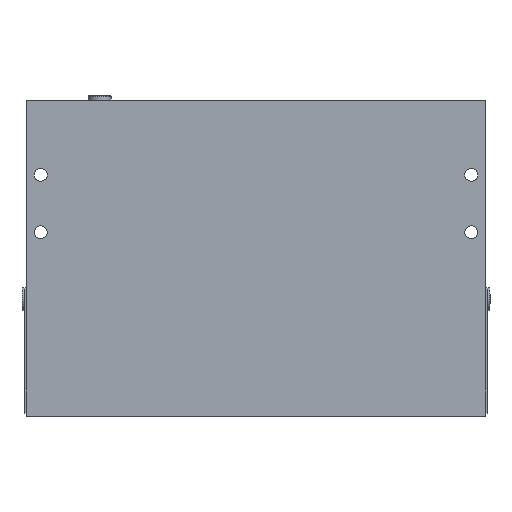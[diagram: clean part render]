
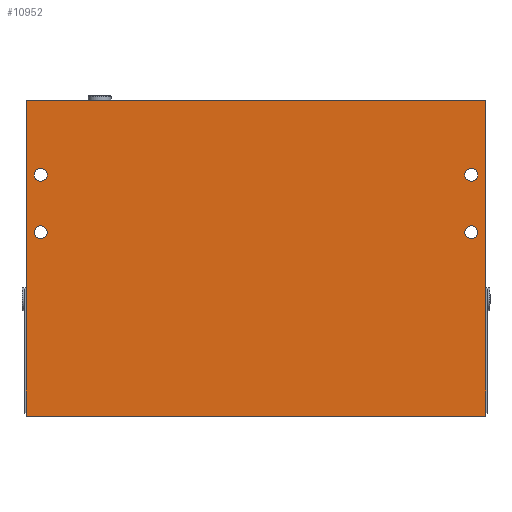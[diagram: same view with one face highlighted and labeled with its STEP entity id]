
A CAD part, front view. The second image highlights one B-rep face of the part: STEP entity #10952.
In plain terms, the highlighted planar face has unit normal (0, -1, 0).
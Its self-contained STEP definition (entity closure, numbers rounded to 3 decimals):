
#403 = ORIENTED_EDGE ( 'NONE', *, *, #3875, .F. ) ;
#476 = DIRECTION ( 'NONE',  ( 0., 1., 0. ) ) ;
#556 = DIRECTION ( 'NONE',  ( 1., 0., 0. ) ) ;
#590 = DIRECTION ( 'NONE',  ( 0., 1., 0. ) ) ;
#823 = EDGE_CURVE ( 'NONE', #8941, #10479, #4717, .T. ) ;
#862 = EDGE_CURVE ( 'NONE', #10107, #4468, #2111, .T. ) ;
#1250 = CIRCLE ( 'NONE', #8597, 2.25 ) ;
#1334 = VERTEX_POINT ( 'NONE', #7105 ) ;
#1379 = CARTESIAN_POINT ( 'NONE',  ( 0., 0., -110. ) ) ;
#1431 = VERTEX_POINT ( 'NONE', #5316 ) ;
#1522 = VERTEX_POINT ( 'NONE', #1379 ) ;
#1622 = LINE ( 'NONE', #2668, #7168 ) ;
#2093 = EDGE_LOOP ( 'NONE', ( #12599, #6381 ) ) ;
#2111 = CIRCLE ( 'NONE', #13261, 2.25 ) ;
#2149 = DIRECTION ( 'NONE',  ( 0., 1., 0. ) ) ;
#2155 = VECTOR ( 'NONE', #3781, 1000. ) ;
#2235 = CARTESIAN_POINT ( 'NONE',  ( 5., 0., -26. ) ) ;
#2319 = AXIS2_PLACEMENT_3D ( 'NONE', #8320, #14131, #3958 ) ;
#2354 = AXIS2_PLACEMENT_3D ( 'NONE', #8483, #476, #556 ) ;
#2668 = CARTESIAN_POINT ( 'NONE',  ( 0., 0., -110. ) ) ;
#2823 = FACE_BOUND ( 'NONE', #14098, .T. ) ;
#2910 = CARTESIAN_POINT ( 'NONE',  ( 155., 0., -26. ) ) ;
#2994 = ORIENTED_EDGE ( 'NONE', *, *, #10608, .T. ) ;
#3419 = EDGE_LOOP ( 'NONE', ( #13996, #4382, #403, #4705 ) ) ;
#3781 = DIRECTION ( 'NONE',  ( 1., 0., 0. ) ) ;
#3875 = EDGE_CURVE ( 'NONE', #6518, #8286, #7407, .T. ) ;
#3902 = CARTESIAN_POINT ( 'NONE',  ( 155., 0., -26. ) ) ;
#3958 = DIRECTION ( 'NONE',  ( 1., 0., 0. ) ) ;
#3980 = ORIENTED_EDGE ( 'NONE', *, *, #11473, .T. ) ;
#4012 = FACE_BOUND ( 'NONE', #13856, .T. ) ;
#4028 = CARTESIAN_POINT ( 'NONE',  ( 155., 0., -43.75 ) ) ;
#4143 = DIRECTION ( 'NONE',  ( 1., 0., 0. ) ) ;
#4156 = CIRCLE ( 'NONE', #12687, 2.25 ) ;
#4302 = CARTESIAN_POINT ( 'NONE',  ( 0., 0., 0. ) ) ;
#4335 = EDGE_CURVE ( 'NONE', #14662, #5114, #9504, .T. ) ;
#4382 = ORIENTED_EDGE ( 'NONE', *, *, #14047, .F. ) ;
#4468 = VERTEX_POINT ( 'NONE', #9751 ) ;
#4705 = ORIENTED_EDGE ( 'NONE', *, *, #5180, .F. ) ;
#4717 = CIRCLE ( 'NONE', #2354, 2.25 ) ;
#4776 = AXIS2_PLACEMENT_3D ( 'NONE', #10576, #11704, #8275 ) ;
#4991 = ORIENTED_EDGE ( 'NONE', *, *, #862, .T. ) ;
#5038 = DIRECTION ( 'NONE',  ( 0., 0., -1. ) ) ;
#5114 = VERTEX_POINT ( 'NONE', #6291 ) ;
#5130 = DIRECTION ( 'NONE',  ( 0., 1., 0. ) ) ;
#5180 = EDGE_CURVE ( 'NONE', #1522, #6518, #1622, .T. ) ;
#5316 = CARTESIAN_POINT ( 'NONE',  ( 160., 0., -110. ) ) ;
#6085 = AXIS2_PLACEMENT_3D ( 'NONE', #14327, #590, #14112 ) ;
#6148 = FACE_BOUND ( 'NONE', #2093, .T. ) ;
#6291 = CARTESIAN_POINT ( 'NONE',  ( 5., 0., -48.25 ) ) ;
#6297 = PLANE ( 'NONE',  #6085 ) ;
#6365 = CARTESIAN_POINT ( 'NONE',  ( 160., 0., 0. ) ) ;
#6381 = ORIENTED_EDGE ( 'NONE', *, *, #4335, .T. ) ;
#6518 = VERTEX_POINT ( 'NONE', #4302 ) ;
#6541 = CIRCLE ( 'NONE', #13682, 2.25 ) ;
#6766 = EDGE_CURVE ( 'NONE', #5114, #14662, #4156, .T. ) ;
#7055 = CARTESIAN_POINT ( 'NONE',  ( 5., 0., -43.75 ) ) ;
#7105 = CARTESIAN_POINT ( 'NONE',  ( 5., 0., -23.75 ) ) ;
#7168 = VECTOR ( 'NONE', #11643, 1000. ) ;
#7407 = LINE ( 'NONE', #9331, #2155 ) ;
#7413 = LINE ( 'NONE', #6365, #10181 ) ;
#7456 = CARTESIAN_POINT ( 'NONE',  ( 160., 0., 0. ) ) ;
#7515 = LINE ( 'NONE', #12063, #11513 ) ;
#7654 = DIRECTION ( 'NONE',  ( -1., 0., 0. ) ) ;
#8275 = DIRECTION ( 'NONE',  ( 1., 0., 0. ) ) ;
#8286 = VERTEX_POINT ( 'NONE', #7456 ) ;
#8320 = CARTESIAN_POINT ( 'NONE',  ( 5., 0., -26. ) ) ;
#8325 = VERTEX_POINT ( 'NONE', #14440 ) ;
#8483 = CARTESIAN_POINT ( 'NONE',  ( 155., 0., -46. ) ) ;
#8597 = AXIS2_PLACEMENT_3D ( 'NONE', #8826, #2149, #10147 ) ;
#8669 = FACE_BOUND ( 'NONE', #13684, .T. ) ;
#8826 = CARTESIAN_POINT ( 'NONE',  ( 155., 0., -46. ) ) ;
#8906 = DIRECTION ( 'NONE',  ( 1., 0., 0. ) ) ;
#8941 = VERTEX_POINT ( 'NONE', #13411 ) ;
#9188 = CIRCLE ( 'NONE', #2319, 2.25 ) ;
#9331 = CARTESIAN_POINT ( 'NONE',  ( 0., 0., 0. ) ) ;
#9370 = DIRECTION ( 'NONE',  ( 0., 1., 0. ) ) ;
#9504 = CIRCLE ( 'NONE', #4776, 2.25 ) ;
#9602 = EDGE_CURVE ( 'NONE', #10479, #8941, #1250, .T. ) ;
#9751 = CARTESIAN_POINT ( 'NONE',  ( 155., 0., -28.25 ) ) ;
#9762 = DIRECTION ( 'NONE',  ( 0., 1., 0. ) ) ;
#9873 = AXIS2_PLACEMENT_3D ( 'NONE', #2235, #11286, #8906 ) ;
#10107 = VERTEX_POINT ( 'NONE', #11917 ) ;
#10131 = EDGE_CURVE ( 'NONE', #1431, #1522, #7515, .T. ) ;
#10147 = DIRECTION ( 'NONE',  ( 1., 0., 0. ) ) ;
#10181 = VECTOR ( 'NONE', #5038, 1000. ) ;
#10479 = VERTEX_POINT ( 'NONE', #4028 ) ;
#10576 = CARTESIAN_POINT ( 'NONE',  ( 5., 0., -46. ) ) ;
#10608 = EDGE_CURVE ( 'NONE', #4468, #10107, #6541, .T. ) ;
#10827 = FACE_OUTER_BOUND ( 'NONE', #3419, .T. ) ;
#10915 = DIRECTION ( 'NONE',  ( 1., 0., 0. ) ) ;
#10952 = ADVANCED_FACE ( 'NONE', ( #2823, #4012, #8669, #6148, #10827 ), #6297, .F. ) ;
#11286 = DIRECTION ( 'NONE',  ( 0., 1., 0. ) ) ;
#11473 = EDGE_CURVE ( 'NONE', #8325, #1334, #9188, .T. ) ;
#11513 = VECTOR ( 'NONE', #7654, 1000. ) ;
#11643 = DIRECTION ( 'NONE',  ( 0., 0., 1. ) ) ;
#11704 = DIRECTION ( 'NONE',  ( 0., 1., 0. ) ) ;
#11804 = EDGE_CURVE ( 'NONE', #1334, #8325, #12031, .T. ) ;
#11917 = CARTESIAN_POINT ( 'NONE',  ( 155., 0., -23.75 ) ) ;
#12031 = CIRCLE ( 'NONE', #9873, 2.25 ) ;
#12063 = CARTESIAN_POINT ( 'NONE',  ( 160., 0., -110. ) ) ;
#12404 = ORIENTED_EDGE ( 'NONE', *, *, #9602, .T. ) ;
#12445 = ORIENTED_EDGE ( 'NONE', *, *, #11804, .T. ) ;
#12599 = ORIENTED_EDGE ( 'NONE', *, *, #6766, .T. ) ;
#12687 = AXIS2_PLACEMENT_3D ( 'NONE', #14244, #9762, #4143 ) ;
#13261 = AXIS2_PLACEMENT_3D ( 'NONE', #3902, #9370, #13847 ) ;
#13411 = CARTESIAN_POINT ( 'NONE',  ( 155., 0., -48.25 ) ) ;
#13682 = AXIS2_PLACEMENT_3D ( 'NONE', #2910, #5130, #10915 ) ;
#13684 = EDGE_LOOP ( 'NONE', ( #3980, #12445 ) ) ;
#13739 = ORIENTED_EDGE ( 'NONE', *, *, #823, .T. ) ;
#13847 = DIRECTION ( 'NONE',  ( 1., 0., 0. ) ) ;
#13856 = EDGE_LOOP ( 'NONE', ( #13739, #12404 ) ) ;
#13996 = ORIENTED_EDGE ( 'NONE', *, *, #10131, .F. ) ;
#14047 = EDGE_CURVE ( 'NONE', #8286, #1431, #7413, .T. ) ;
#14098 = EDGE_LOOP ( 'NONE', ( #2994, #4991 ) ) ;
#14112 = DIRECTION ( 'NONE',  ( 1., 0., 0. ) ) ;
#14131 = DIRECTION ( 'NONE',  ( 0., 1., 0. ) ) ;
#14244 = CARTESIAN_POINT ( 'NONE',  ( 5., 0., -46. ) ) ;
#14327 = CARTESIAN_POINT ( 'NONE',  ( 0., 0., 0. ) ) ;
#14440 = CARTESIAN_POINT ( 'NONE',  ( 5., 0., -28.25 ) ) ;
#14662 = VERTEX_POINT ( 'NONE', #7055 ) ;
